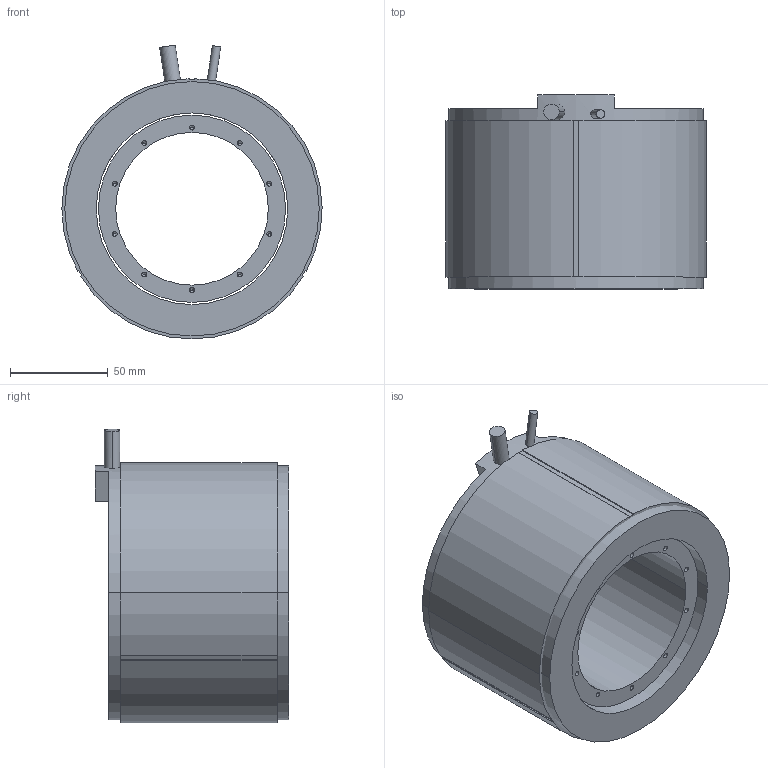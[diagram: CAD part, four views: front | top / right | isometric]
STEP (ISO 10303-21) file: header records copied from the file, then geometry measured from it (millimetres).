
FILE_DESCRIPTION (( 'STEP AP203' ), '1' );
FILE_NAME ('TMX133-92 3D.STEP', '2022-11-23T02:22:56', ( '' ), ( '' ), 'SwSTEP 2.0', 'SolidWorks 2021', '' );
FILE_SCHEMA (( 'CONFIG_CONTROL_DESIGN' ));
Length unit declared in the file: millimetre
Products named in the file (3): TMX133-92 3D; TM133-92 3D; TMX133-92 KIT 3D
Assembly tree (2 placements, depth 2):
  TMX133-92 3D
    TM133-92 3D
    TMX133-92 KIT 3D
Bounding box: 133 x 99 x 150.15 mm (x, y, z)
Volume: 873693.3 mm3; surface area: 200132 mm2
Topology: 3 solids, 3 shells, 126 faces, 317 edges, 178 vertices
Faces by surface type: cylinder 58, cone 40, plane 28
Entity records: 3916 total; most frequent: CARTESIAN_POINT 710, DIRECTION 651, ORIENTED_EDGE 554, EDGE_CURVE 277, AXIS2_PLACEMENT_3D 247, VERTEX_POINT 178, EDGE_LOOP 157, VECTOR 157
